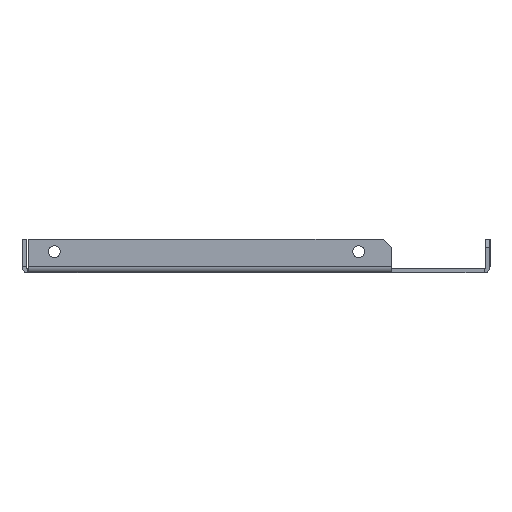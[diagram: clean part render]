
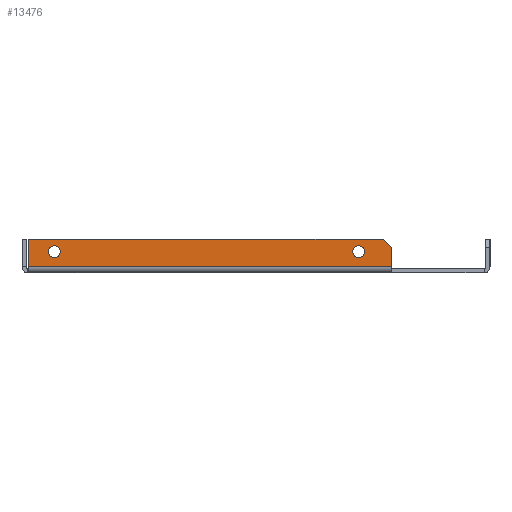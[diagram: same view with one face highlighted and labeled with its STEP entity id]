
A CAD part, left-side view. The second image highlights one B-rep face of the part: STEP entity #13476.
In plain terms, the highlighted planar face has unit normal (-1, 0, 0).
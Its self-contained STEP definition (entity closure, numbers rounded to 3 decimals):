
#10961=CARTESIAN_POINT(' ',(-234.5,-48.25,0.6));
#10962=VERTEX_POINT(' ',#10961);
#10976=CARTESIAN_POINT(' ',(-234.5,-48.25,0.6));
#10981=DIRECTION(' ',(0.,1.,0.));
#10986=VECTOR(' ',#10981,1.);
#10991=LINE('',#10976,#10986);
#10996=CARTESIAN_POINT(' ',(-234.5,81.043,0.6));
#10997=VERTEX_POINT(' ',#10996);
#11001=EDGE_CURVE(' ',#10962,#10997,#10991,.T.);
#13121=DIRECTION(' ',(-1.,-0.,0.));
#13126=CARTESIAN_POINT(' ',(-234.5,-48.25,10.5));
#13131=DIRECTION(' ',(-0.,1.,0.));
#13136=AXIS2_PLACEMENT_3D(' ',#13126,#13121,#13131);
#13141=PLANE('NONE',#13136);
#13146=CARTESIAN_POINT(' ',(-234.5,-48.25,7.5));
#13151=DIRECTION(' ',(0.,0.,-1.));
#13156=VECTOR(' ',#13151,1.);
#13161=LINE('',#13146,#13156);
#13166=CARTESIAN_POINT(' ',(-234.5,-48.25,7.5));
#13167=VERTEX_POINT(' ',#13166);
#13171=EDGE_CURVE(' ',#13167,#10962,#13161,.T.);
#13176=ORIENTED_EDGE(' ',*,*,#13171,.F.);
#13181=CARTESIAN_POINT(' ',(-234.5,-48.25,7.5));
#13186=DIRECTION(' ',(0.,0.707,0.707));
#13191=VECTOR(' ',#13186,1.);
#13196=LINE('',#13181,#13191);
#13201=CARTESIAN_POINT(' ',(-234.5,-45.25,10.5));
#13202=VERTEX_POINT(' ',#13201);
#13206=EDGE_CURVE(' ',#13167,#13202,#13196,.T.);
#13211=ORIENTED_EDGE(' ',*,*,#13206,.T.);
#13216=CARTESIAN_POINT(' ',(-234.5,-45.25,10.5));
#13221=DIRECTION(' ',(0.,1.,0.));
#13226=VECTOR(' ',#13221,1.);
#13231=LINE('',#13216,#13226);
#13236=CARTESIAN_POINT(' ',(-234.5,81.043,10.5));
#13237=VERTEX_POINT(' ',#13236);
#13241=EDGE_CURVE(' ',#13202,#13237,#13231,.T.);
#13246=ORIENTED_EDGE(' ',*,*,#13241,.T.);
#13251=CARTESIAN_POINT(' ',(-234.5,81.043,0.6));
#13256=DIRECTION(' ',(0.,0.,1.));
#13261=VECTOR(' ',#13256,1.);
#13266=LINE('',#13251,#13261);
#13271=EDGE_CURVE(' ',#10997,#13237,#13266,.T.);
#13276=ORIENTED_EDGE(' ',*,*,#13271,.F.);
#13281=ORIENTED_EDGE(' ',*,*,#11001,.F.);
#13286=EDGE_LOOP(' ',(#13176,#13211,#13246,#13276,#13281));
#13291=FACE_OUTER_BOUND(' ',#13286,.T.);
#13296=CARTESIAN_POINT(' ',(-234.5,-36.5,6.));
#13301=DIRECTION(' ',(-1.,-0.,0.));
#13306=DIRECTION(' ',(0.,0.,1.));
#13311=AXIS2_PLACEMENT_3D(' ',#13296,#13301,#13306);
#13316=CIRCLE('',#13311,2.1);
#13321=CARTESIAN_POINT(' ',(-234.5,-36.5,8.1));
#13322=VERTEX_POINT(' ',#13321);
#13326=CARTESIAN_POINT(' ',(-234.5,-36.5,3.9));
#13327=VERTEX_POINT(' ',#13326);
#13331=EDGE_CURVE(' ',#13322,#13327,#13316,.T.);
#13336=ORIENTED_EDGE(' ',*,*,#13331,.F.);
#13341=CARTESIAN_POINT(' ',(-234.5,-36.5,6.));
#13346=DIRECTION(' ',(-1.,0.,0.));
#13351=DIRECTION(' ',(0.,0.,-1.));
#13356=AXIS2_PLACEMENT_3D(' ',#13341,#13346,#13351);
#13361=CIRCLE('',#13356,2.1);
#13366=EDGE_CURVE(' ',#13327,#13322,#13361,.T.);
#13371=ORIENTED_EDGE(' ',*,*,#13366,.F.);
#13376=EDGE_LOOP(' ',(#13336,#13371));
#13381=FACE_BOUND(' ',#13376,.T.);
#13386=CARTESIAN_POINT(' ',(-234.5,71.75,6.));
#13391=DIRECTION(' ',(-1.,-0.,0.));
#13396=DIRECTION(' ',(0.,0.,1.));
#13401=AXIS2_PLACEMENT_3D(' ',#13386,#13391,#13396);
#13406=CIRCLE('',#13401,2.1);
#13411=CARTESIAN_POINT(' ',(-234.5,71.75,8.1));
#13412=VERTEX_POINT(' ',#13411);
#13416=CARTESIAN_POINT(' ',(-234.5,71.75,3.9));
#13417=VERTEX_POINT(' ',#13416);
#13421=EDGE_CURVE(' ',#13412,#13417,#13406,.T.);
#13426=ORIENTED_EDGE(' ',*,*,#13421,.F.);
#13431=CARTESIAN_POINT(' ',(-234.5,71.75,6.));
#13436=DIRECTION(' ',(-1.,0.,0.));
#13441=DIRECTION(' ',(0.,0.,-1.));
#13446=AXIS2_PLACEMENT_3D(' ',#13431,#13436,#13441);
#13451=CIRCLE('',#13446,2.1);
#13456=EDGE_CURVE(' ',#13417,#13412,#13451,.T.);
#13461=ORIENTED_EDGE(' ',*,*,#13456,.F.);
#13466=EDGE_LOOP(' ',(#13426,#13461));
#13471=FACE_BOUND(' ',#13466,.T.);
#13476=ADVANCED_FACE('NONE',(#13291,#13381,#13471),#13141,.T.);
